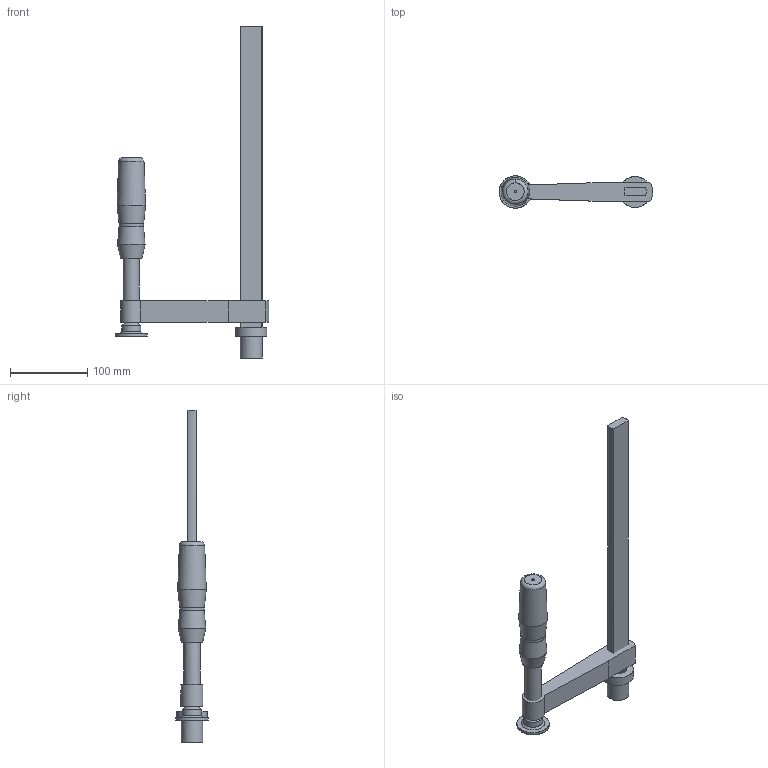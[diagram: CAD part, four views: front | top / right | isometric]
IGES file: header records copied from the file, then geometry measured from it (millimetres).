
Start section: ZWSOFT
Global section: file name: TW28-30-14-2K.igs; native system: ZW3D; preprocessor: 1.0; author: ZW3D; organization: ZWSOFT; date: 140317.111158; units: millimetre
Bounding box: 198.59 x 41.72 x 429 mm (x, y, z)
Surface area: 85052.1 mm2 (no closed solid volume)
Topology: 0 solids, 0 shells, 37 faces, 187 edges, 156 vertices
Faces by surface type: bspline 37
